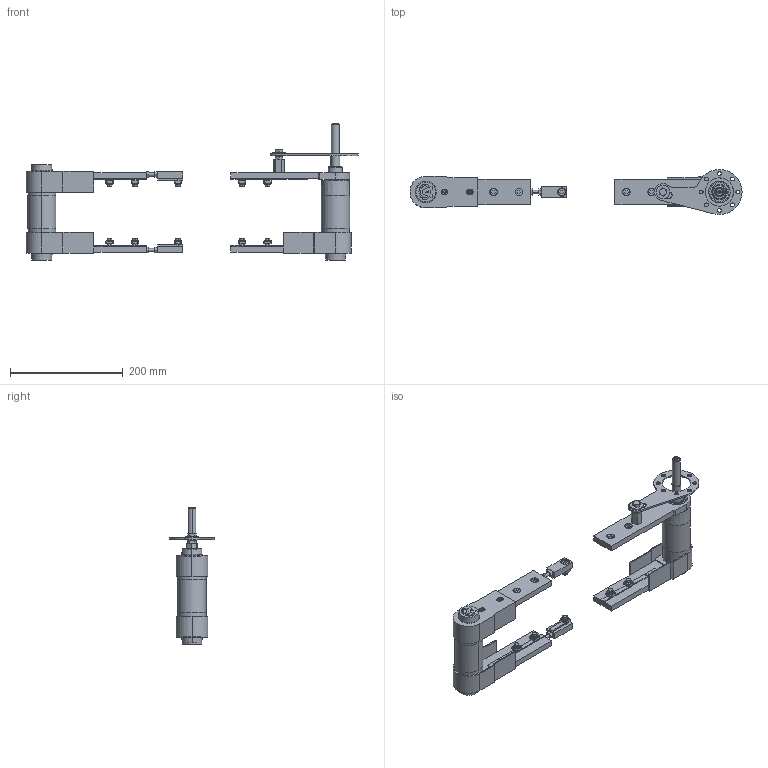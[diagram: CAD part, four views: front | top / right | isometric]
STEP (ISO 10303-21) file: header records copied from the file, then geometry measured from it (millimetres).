
FILE_DESCRIPTION (( 'STEP AP214' ), '1' );
FILE_NAME ('084.815.038.STEP', '2020-01-24T15:26:17', ( 'Localadmin' ), ( 'Microsoft' ), 'SwSTEP 2.0', 'SolidWorks 2018', '' );
FILE_SCHEMA (( 'AUTOMOTIVE_DESIGN' ));
Length unit declared in the file: millimetre
Products named in the file (18): 084.815.038; 084.807.003_084.807.003; 084.802.017_084.802.017; 084.807.002_084.807.002; 084.000.A02_SENZA DADO; VITI TE UNI 5739_M8x20 UNI 5739; RONDELLE FASCIA LARGA UNI 6593_8.4x24 UNI 6593; DADI ESAGONALI RIBASSATI UNI 5589_M8 UNI 5589; GRANI A PUNTA PIATTA UNI 5923_M8x25 UNI 5923; 084.802.027; 084.807.005; 084.802.008; 084.802.023_084.802.023; 084.815.112; VITI TSEI UNI 5933_M4x12 UNI 5933; 084.815.113; 084.301.000 VITI ALUSIC_084.301.003; 084.302.000 DADI ALUSIC 13x13-1_084.302.004
Assembly tree (48 placements, depth 3):
  084.815.038
    084.815.113
    084.815.112
    084.802.023_084.802.023  x3
    084.802.008  x2
    084.000.A02_SENZA DADO
      084.807.005
      084.802.027
      GRANI A PUNTA PIATTA UNI 5923_M8x25 UNI 5923
      DADI ESAGONALI RIBASSATI UNI 5589_M8 UNI 5589
      RONDELLE FASCIA LARGA UNI 6593_8.4x24 UNI 6593
      VITI TE UNI 5739_M8x20 UNI 5739
    084.807.002_084.807.002  x3
    084.802.017_084.802.017  x4
    084.807.003_084.807.003
    084.302.000 DADI ALUSIC 13x13-1_084.302.004  x10
    084.301.000 VITI ALUSIC_084.301.003  x10
    VITI TSEI UNI 5933_M4x12 UNI 5933  x6
Bounding box: 588 x 80 x 241 mm (x, y, z)
Volume: 1047593.8 mm3; surface area: 342030.4 mm2
Topology: 55 solids, 59 shells, 1370 faces, 3359 edges, 2153 vertices
Faces by surface type: plane 606, cylinder 394, cone 164, torus 126, bspline 64, sphere 16
Entity records: 16616 total; most frequent: CARTESIAN_POINT 3554, DIRECTION 2619, ORIENTED_EDGE 2402, EDGE_CURVE 1201, AXIS2_PLACEMENT_3D 1009, VERTEX_POINT 770, LINE 601, VECTOR 601
